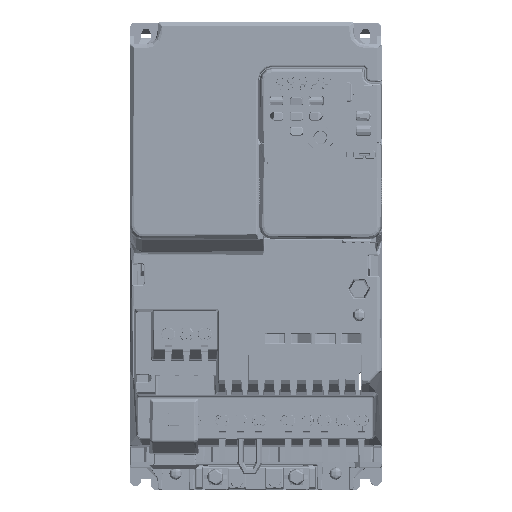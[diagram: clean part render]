
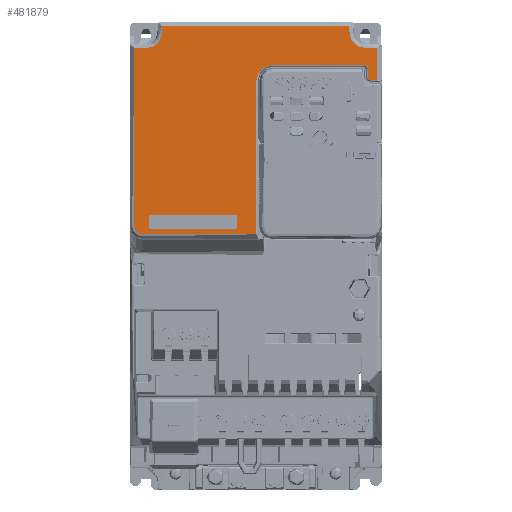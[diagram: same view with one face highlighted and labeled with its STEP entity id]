
A CAD part, top view. The second image highlights one B-rep face of the part: STEP entity #481879.
In plain terms, the highlighted planar face has unit normal (0, 0, 1).
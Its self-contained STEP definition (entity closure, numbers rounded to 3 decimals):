
#384749=DIRECTION('',(0.,1.,0.));
#384750=VECTOR('',#384749,17.813);
#384751=CARTESIAN_POINT('',(67.5,97.687,
126.));
#384752=LINE('',#384751,#384750);
#384774=DIRECTION('',(-0.999,0.052,0.));
#384775=VECTOR('',#384774,3.59);
#384776=CARTESIAN_POINT('',(67.5,97.687,
126.));
#384777=LINE('',#384776,#384775);
#384778=CARTESIAN_POINT('',(64.,99.5,126.));
#384779=DIRECTION('',(0.,0.,-1.));
#384780=DIRECTION('',(-0.052,-0.999,0.));
#384781=AXIS2_PLACEMENT_3D('',#384778,#384779,#384780);
#384783=CARTESIAN_POINT('',(62.372,104.123,
126.));
#384784=CARTESIAN_POINT('',(62.372,104.34,
126.));
#384785=CARTESIAN_POINT('',(62.305,104.75,
126.));
#384786=CARTESIAN_POINT('',(62.016,105.319,
126.));
#384787=CARTESIAN_POINT('',(61.569,105.766,
126.));
#384788=CARTESIAN_POINT('',(61.,106.055,
126.));
#384789=CARTESIAN_POINT('',(60.59,106.122,
126.));
#384790=CARTESIAN_POINT('',(60.373,106.122,
126.));
#384792=CARTESIAN_POINT('',(9.,97.5,126.));
#384793=DIRECTION('',(0.,0.,1.));
#384794=DIRECTION('',(0.,1.,0.));
#384795=AXIS2_PLACEMENT_3D('',#384792,#384793,#384794);
#384797=CARTESIAN_POINT('',(-62.997,16.394,
126.));
#384798=DIRECTION('',(0.,0.,
-1.));
#384799=DIRECTION('',(-0.001,-1.,0.));
#384800=AXIS2_PLACEMENT_3D('',#384797,#384798,#384799);
#384802=CARTESIAN_POINT('',(-60.694,124.,126.));
#384803=DIRECTION('',(0.,0.,1.));
#384804=DIRECTION('',(0.,-1.,0.));
#384805=AXIS2_PLACEMENT_3D('',#384802,#384803,#384804);
#384807=DIRECTION('',(0.052,0.999,0.));
#384808=VECTOR('',#384807,3.95);
#384809=CARTESIAN_POINT('',(-52.205,123.555,126.));
#384810=LINE('',#384809,#384808);
#384811=DIRECTION('',(0.052,-0.999,
0.));
#384812=VECTOR('',#384811,3.95);
#384813=CARTESIAN_POINT('',(51.999,127.5,126.));
#384814=LINE('',#384813,#384812);
#384815=CARTESIAN_POINT('',(60.694,124.,126.));
#384816=DIRECTION('',(0.,0.,1.));
#384817=DIRECTION('',(-0.999,-0.052,0.));
#384818=AXIS2_PLACEMENT_3D('',#384815,#384816,#384817);
#384888=DIRECTION('',(1.,0.,0.));
#384889=VECTOR('',#384888,51.373);
#384890=CARTESIAN_POINT('',(9.,106.122,126.));
#384891=LINE('',#384890,#384889);
#384902=DIRECTION('',(0.,-1.,0.));
#384903=VECTOR('',#384902,4.623);
#384904=CARTESIAN_POINT('',(62.372,104.123,
126.));
#384905=LINE('',#384904,#384903);
#384910=DIRECTION('',(0.,1.,0.));
#384911=VECTOR('',#384910,85.608);
#384912=CARTESIAN_POINT('',(0.378,11.892,
126.));
#384913=LINE('',#384912,#384911);
#390925=DIRECTION('',(-1.,0.,0.));
#390926=VECTOR('',#390925,6.806);
#390927=CARTESIAN_POINT('',(67.5,115.5,126.));
#390928=LINE('',#390927,#390926);
#390986=DIRECTION('',(-1.,0.,0.));
#390987=VECTOR('',#390986,103.997);
#390988=CARTESIAN_POINT('',(51.999,127.5,126.));
#390989=LINE('',#390988,#390987);
#391027=DIRECTION('',(-1.,0.,0.));
#391028=VECTOR('',#391027,6.806);
#391029=CARTESIAN_POINT('',(-60.694,115.5,126.));
#391030=LINE('',#391029,#391028);
#391053=DIRECTION('',(0.,-1.,0.));
#391054=VECTOR('',#391053,99.101);
#391055=CARTESIAN_POINT('',(-67.5,115.5,126.));
#391056=LINE('',#391055,#391054);
#391085=DIRECTION('',(1.,0.,0.));
#391086=VECTOR('',#391085,63.379);
#391087=CARTESIAN_POINT('',(-63.001,11.892,
126.));
#391088=LINE('',#391087,#391086);
#458538=CARTESIAN_POINT('',(52.205,123.555,126.));
#458539=CARTESIAN_POINT('',(60.694,115.5,126.));
#458540=VERTEX_POINT('',#458538);
#458541=VERTEX_POINT('',#458539);
#458542=CARTESIAN_POINT('',(67.5,97.687,
126.));
#458543=CARTESIAN_POINT('',(67.5,115.5,126.));
#458544=VERTEX_POINT('',#458542);
#458545=VERTEX_POINT('',#458543);
#458546=CARTESIAN_POINT('',(63.915,97.875,126.));
#458547=VERTEX_POINT('',#458546);
#458548=CARTESIAN_POINT('',(62.372,99.5,126.));
#458549=VERTEX_POINT('',#458548);
#458550=CARTESIAN_POINT('',(62.372,104.123,
126.));
#458551=VERTEX_POINT('',#458550);
#458552=VERTEX_POINT('',#384790);
#458553=CARTESIAN_POINT('',(9.,106.122,126.));
#458554=VERTEX_POINT('',#458553);
#458555=CARTESIAN_POINT('',(0.378,97.5,126.));
#458556=VERTEX_POINT('',#458555);
#458557=CARTESIAN_POINT('',(0.378,11.892,
126.));
#458558=VERTEX_POINT('',#458557);
#458559=CARTESIAN_POINT('',(-63.001,11.892,
126.));
#458560=VERTEX_POINT('',#458559);
#458561=CARTESIAN_POINT('',(-67.5,16.401,
126.));
#458562=VERTEX_POINT('',#458561);
#458563=CARTESIAN_POINT('',(-67.5,115.5,126.));
#458564=VERTEX_POINT('',#458563);
#458565=CARTESIAN_POINT('',(-60.694,115.5,126.));
#458566=VERTEX_POINT('',#458565);
#458567=CARTESIAN_POINT('',(-52.205,123.555,126.));
#458568=VERTEX_POINT('',#458567);
#458569=CARTESIAN_POINT('',(-51.999,127.5,126.));
#458570=VERTEX_POINT('',#458569);
#458571=CARTESIAN_POINT('',(51.999,127.5,126.));
#458572=VERTEX_POINT('',#458571);
#481837=CARTESIAN_POINT('',(0.,0.,126.));
#481838=DIRECTION('',(0.,0.,1.));
#481839=DIRECTION('',(1.,0.,0.));
#481840=AXIS2_PLACEMENT_3D('',#481837,#481838,#481839);
#481841=PLANE('',#481840);
#481842=ORIENTED_EDGE('',*,*,#481828,.F.);
#481844=ORIENTED_EDGE('',*,*,#481843,.T.);
#481846=ORIENTED_EDGE('',*,*,#481845,.T.);
#481848=ORIENTED_EDGE('',*,*,#481847,.F.);
#481850=ORIENTED_EDGE('',*,*,#481849,.T.);
#481852=ORIENTED_EDGE('',*,*,#481851,.F.);
#481854=ORIENTED_EDGE('',*,*,#481853,.T.);
#481856=ORIENTED_EDGE('',*,*,#481855,.F.);
#481858=ORIENTED_EDGE('',*,*,#481857,.F.);
#481860=ORIENTED_EDGE('',*,*,#481859,.T.);
#481862=ORIENTED_EDGE('',*,*,#481861,.F.);
#481864=ORIENTED_EDGE('',*,*,#481863,.F.);
#481866=ORIENTED_EDGE('',*,*,#481865,.T.);
#481868=ORIENTED_EDGE('',*,*,#481867,.T.);
#481870=ORIENTED_EDGE('',*,*,#481869,.F.);
#481872=ORIENTED_EDGE('',*,*,#481871,.T.);
#481874=ORIENTED_EDGE('',*,*,#481873,.T.);
#481876=ORIENTED_EDGE('',*,*,#481875,.F.);
#481877=EDGE_LOOP('',(#481842,#481844,#481846,#481848,#481850,#481852,#481854,
#481856,#481858,#481860,#481862,#481864,#481866,#481868,#481870,#481872,#481874,
#481876));
#481878=FACE_OUTER_BOUND('',#481877,.F.);
#481879=ADVANCED_FACE('',(#481878),#481841,.T.);
#384782=CIRCLE('',#384781,1.628);
#384791=B_SPLINE_CURVE_WITH_KNOTS('',3,(#384783,#384784,#384785,#384786,#384787,
#384788,#384789,#384790),.UNSPECIFIED.,.F.,.F.,(4,1,1,1,1,4),(0.,0.2,0.4,
0.6,0.8,1.),.UNSPECIFIED.);
#384796=CIRCLE('',#384795,8.622);
#384801=CIRCLE('',#384800,4.503);
#384806=CIRCLE('',#384805,8.5);
#384819=CIRCLE('',#384818,8.5);
#481828=EDGE_CURVE('',#458544,#458545,#384752,.T.);
#481843=EDGE_CURVE('',#458544,#458547,#384777,.T.);
#481845=EDGE_CURVE('',#458547,#458549,#384782,.T.);
#481847=EDGE_CURVE('',#458551,#458549,#384905,.T.);
#481849=EDGE_CURVE('',#458551,#458552,#384791,.T.);
#481851=EDGE_CURVE('',#458554,#458552,#384891,.T.);
#481853=EDGE_CURVE('',#458554,#458556,#384796,.T.);
#481855=EDGE_CURVE('',#458558,#458556,#384913,.T.);
#481857=EDGE_CURVE('',#458560,#458558,#391088,.T.);
#481859=EDGE_CURVE('',#458560,#458562,#384801,.T.);
#481861=EDGE_CURVE('',#458564,#458562,#391056,.T.);
#481863=EDGE_CURVE('',#458566,#458564,#391030,.T.);
#481865=EDGE_CURVE('',#458566,#458568,#384806,.T.);
#481867=EDGE_CURVE('',#458568,#458570,#384810,.T.);
#481869=EDGE_CURVE('',#458572,#458570,#390989,.T.);
#481871=EDGE_CURVE('',#458572,#458540,#384814,.T.);
#481873=EDGE_CURVE('',#458540,#458541,#384819,.T.);
#481875=EDGE_CURVE('',#458545,#458541,#390928,.T.);
